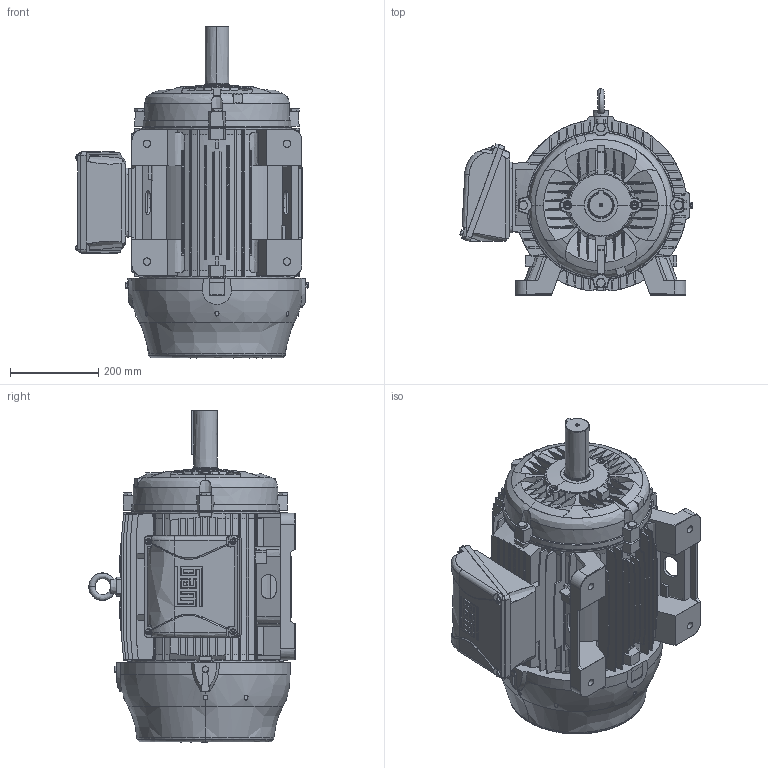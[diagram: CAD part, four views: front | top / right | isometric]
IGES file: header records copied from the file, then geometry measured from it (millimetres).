
Start section: SolidWorks IGES file using analytic representation for surfaces
Global section: file name: Y:\NEMA\W22_GENERAL_PURPOSE\14_FRAME_324T\STANDARD\IGS\324T_LEFT.IGS; native system: SolidWorks 2009; preprocessor: SolidWorks 2009; author: matheusc; date: 100705.111453; units: millimetre
Bounding box: 525.98 x 467.2 x 751.86 mm (x, y, z)
Surface area: 2867330.6 mm2 (no closed solid volume)
Topology: 0 solids, 0 shells, 2671 faces, 31627 edges, 31624 vertices
Faces by surface type: revolution 1567, bspline 1104
